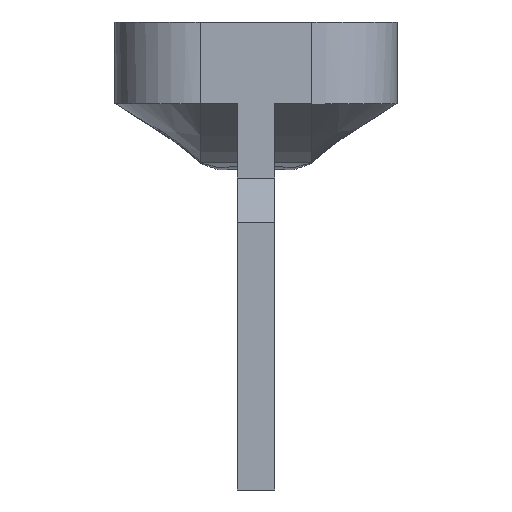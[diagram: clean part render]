
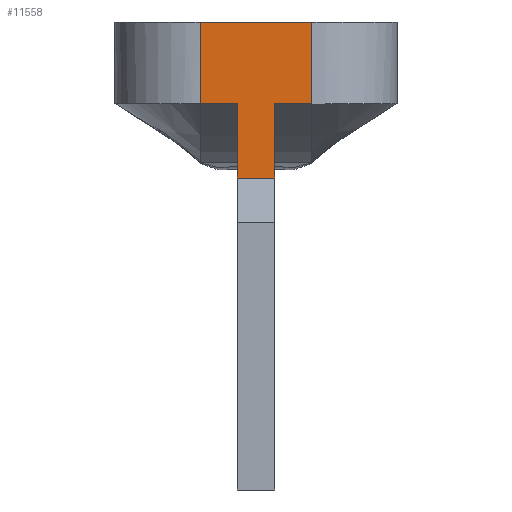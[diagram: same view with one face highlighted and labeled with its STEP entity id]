
A CAD part, left-side view. The second image highlights one B-rep face of the part: STEP entity #11558.
In plain terms, the highlighted planar face has unit normal (-1, 0, 0).
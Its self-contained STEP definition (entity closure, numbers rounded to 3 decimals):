
#642 = DIRECTION ( 'NONE',  ( 0., 0., 1. ) ) ;
#1350 = CARTESIAN_POINT ( 'NONE',  ( -159., 66., -218.5 ) ) ;
#1671 = LINE ( 'NONE', #5537, #5070 ) ;
#1778 = CARTESIAN_POINT ( 'NONE',  ( -159., 51., -208.5 ) ) ;
#2268 = ORIENTED_EDGE ( 'NONE', *, *, #7727, .F. ) ;
#2553 = LINE ( 'NONE', #6443, #15393 ) ;
#2860 = EDGE_CURVE ( 'NONE', #20118, #19098, #18499, .T. ) ;
#3550 = CARTESIAN_POINT ( 'NONE',  ( -159., 61., -218.5 ) ) ;
#3950 = VERTEX_POINT ( 'NONE', #18682 ) ;
#3955 = CARTESIAN_POINT ( 'NONE',  ( -159., 66., -211.5 ) ) ;
#4417 = AXIS2_PLACEMENT_3D ( 'NONE', #3955, #17273, #10477 ) ;
#4578 = CARTESIAN_POINT ( 'NONE',  ( -159., 56., -218.5 ) ) ;
#5070 = VECTOR ( 'NONE', #642, 1000. ) ;
#5537 = CARTESIAN_POINT ( 'NONE',  ( -159., 61., -218.5 ) ) ;
#5563 = CARTESIAN_POINT ( 'NONE',  ( -159., 66., -197.5 ) ) ;
#5606 = VERTEX_POINT ( 'NONE', #1778 ) ;
#5674 = VECTOR ( 'NONE', #9842, 1000. ) ;
#5982 = CARTESIAN_POINT ( 'NONE',  ( -159., 56., -260.5 ) ) ;
#6098 = CARTESIAN_POINT ( 'NONE',  ( -159., 66., -208.5 ) ) ;
#6312 = ORIENTED_EDGE ( 'NONE', *, *, #14381, .T. ) ;
#6443 = CARTESIAN_POINT ( 'NONE',  ( -159., 61., -208.5 ) ) ;
#7093 = CARTESIAN_POINT ( 'NONE',  ( -159., 66., -211.5 ) ) ;
#7182 = LINE ( 'NONE', #5563, #17127 ) ;
#7727 = EDGE_CURVE ( 'NONE', #19098, #3950, #1671, .T. ) ;
#7925 = DIRECTION ( 'NONE',  ( 0., 0., -1. ) ) ;
#8223 = LINE ( 'NONE', #7093, #16071 ) ;
#8643 = EDGE_LOOP ( 'NONE', ( #6312, #8683, #9658, #21021, #11129, #2268, #14605, #14489 ) ) ;
#8683 = ORIENTED_EDGE ( 'NONE', *, *, #15599, .F. ) ;
#8768 = DIRECTION ( 'NONE',  ( 0., -1., 0. ) ) ;
#8927 = VECTOR ( 'NONE', #8768, 1000. ) ;
#9032 = EDGE_CURVE ( 'NONE', #19031, #19412, #7182, .T. ) ;
#9511 = EDGE_CURVE ( 'NONE', #12854, #19031, #8223, .T. ) ;
#9658 = ORIENTED_EDGE ( 'NONE', *, *, #9032, .F. ) ;
#9842 = DIRECTION ( 'NONE',  ( 0., 1., 0. ) ) ;
#9967 = LINE ( 'NONE', #16813, #8927 ) ;
#10477 = DIRECTION ( 'NONE',  ( 0., 0., -1. ) ) ;
#10479 = DIRECTION ( 'NONE',  ( 0., -1., 0. ) ) ;
#11129 = ORIENTED_EDGE ( 'NONE', *, *, #21261, .F. ) ;
#11161 = EDGE_CURVE ( 'NONE', #14736, #20118, #11846, .T. ) ;
#11558 = ADVANCED_FACE ( 'NONE', ( #20215 ), #20808, .F. ) ;
#11846 = LINE ( 'NONE', #5982, #20232 ) ;
#12185 = CARTESIAN_POINT ( 'NONE',  ( -159., 51., -197.5 ) ) ;
#12854 = VERTEX_POINT ( 'NONE', #6098 ) ;
#14381 = EDGE_CURVE ( 'NONE', #14736, #5606, #9967, .T. ) ;
#14489 = ORIENTED_EDGE ( 'NONE', *, *, #11161, .F. ) ;
#14605 = ORIENTED_EDGE ( 'NONE', *, *, #2860, .F. ) ;
#14736 = VERTEX_POINT ( 'NONE', #20845 ) ;
#15393 = VECTOR ( 'NONE', #19821, 1000. ) ;
#15458 = LINE ( 'NONE', #18225, #19641 ) ;
#15599 = EDGE_CURVE ( 'NONE', #19412, #5606, #15458, .T. ) ;
#16071 = VECTOR ( 'NONE', #18793, 1000. ) ;
#16224 = CARTESIAN_POINT ( 'NONE',  ( -159., 66., -197.5 ) ) ;
#16524 = DIRECTION ( 'NONE',  ( 0., 0., -1. ) ) ;
#16813 = CARTESIAN_POINT ( 'NONE',  ( -159., 56., -208.5 ) ) ;
#17127 = VECTOR ( 'NONE', #10479, 1000. ) ;
#17273 = DIRECTION ( 'NONE',  ( 1., 0., 0. ) ) ;
#18225 = CARTESIAN_POINT ( 'NONE',  ( -159., 51., -211.5 ) ) ;
#18499 = LINE ( 'NONE', #1350, #5674 ) ;
#18682 = CARTESIAN_POINT ( 'NONE',  ( -159., 61., -208.5 ) ) ;
#18793 = DIRECTION ( 'NONE',  ( 0., 0., 1. ) ) ;
#19031 = VERTEX_POINT ( 'NONE', #16224 ) ;
#19098 = VERTEX_POINT ( 'NONE', #3550 ) ;
#19412 = VERTEX_POINT ( 'NONE', #12185 ) ;
#19641 = VECTOR ( 'NONE', #7925, 1000. ) ;
#19821 = DIRECTION ( 'NONE',  ( 0., 1., 0. ) ) ;
#20118 = VERTEX_POINT ( 'NONE', #4578 ) ;
#20215 = FACE_OUTER_BOUND ( 'NONE', #8643, .T. ) ;
#20232 = VECTOR ( 'NONE', #16524, 1000. ) ;
#20808 = PLANE ( 'NONE',  #4417 ) ;
#20845 = CARTESIAN_POINT ( 'NONE',  ( -159., 56., -208.5 ) ) ;
#21021 = ORIENTED_EDGE ( 'NONE', *, *, #9511, .F. ) ;
#21261 = EDGE_CURVE ( 'NONE', #3950, #12854, #2553, .T. ) ;
